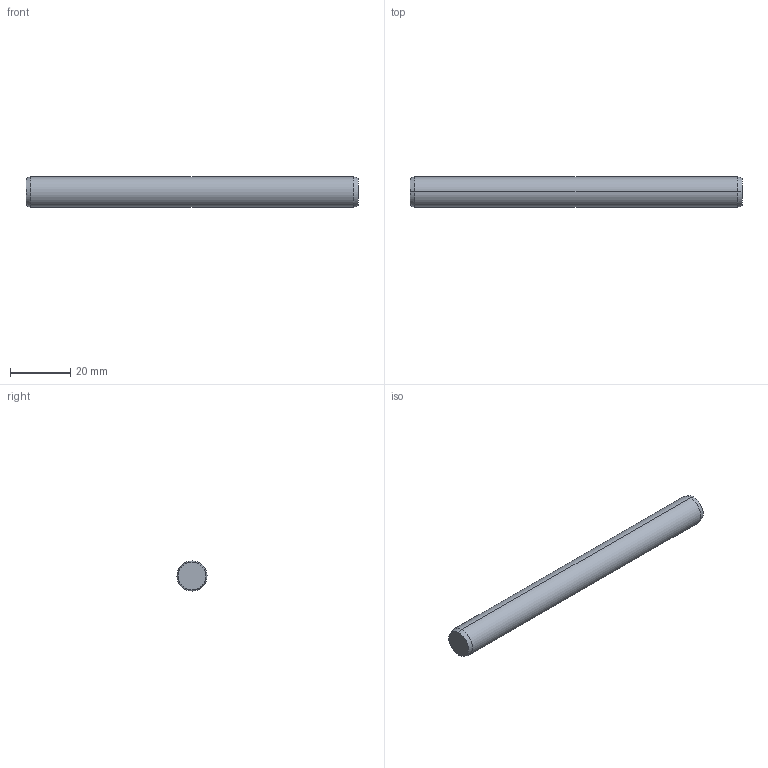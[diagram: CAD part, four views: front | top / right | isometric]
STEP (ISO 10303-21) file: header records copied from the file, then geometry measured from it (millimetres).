
FILE_DESCRIPTION (( 'STEP AP203' ), '1' );
FILE_NAME ('P1206.100-110.step', '2017-06-14T08:35:32', ( 'User' ), ( '' ), 'SwSTEP 2.0', 'SolidWorks 2009', '' );
FILE_SCHEMA (( 'CONFIG_CONTROL_DESIGN' ));
Length unit declared in the file: millimetre
Products named in the file (1): P1206.100-110
Bounding box: 110 x 10 x 10 mm (x, y, z)
Volume: 8620.9 mm3; surface area: 3588 mm2
Topology: 1 solids, 1 shells, 8 faces, 14 edges, 8 vertices
Faces by surface type: cone 4, cylinder 2, plane 2
Entity records: 271 total; most frequent: DIRECTION 40, CARTESIAN_POINT 31, ORIENTED_EDGE 28, AXIS2_PLACEMENT_3D 17, EDGE_CURVE 14, PERSON_AND_ORGANIZATION 8, FACE_OUTER_BOUND 8, ADVANCED_FACE 8
